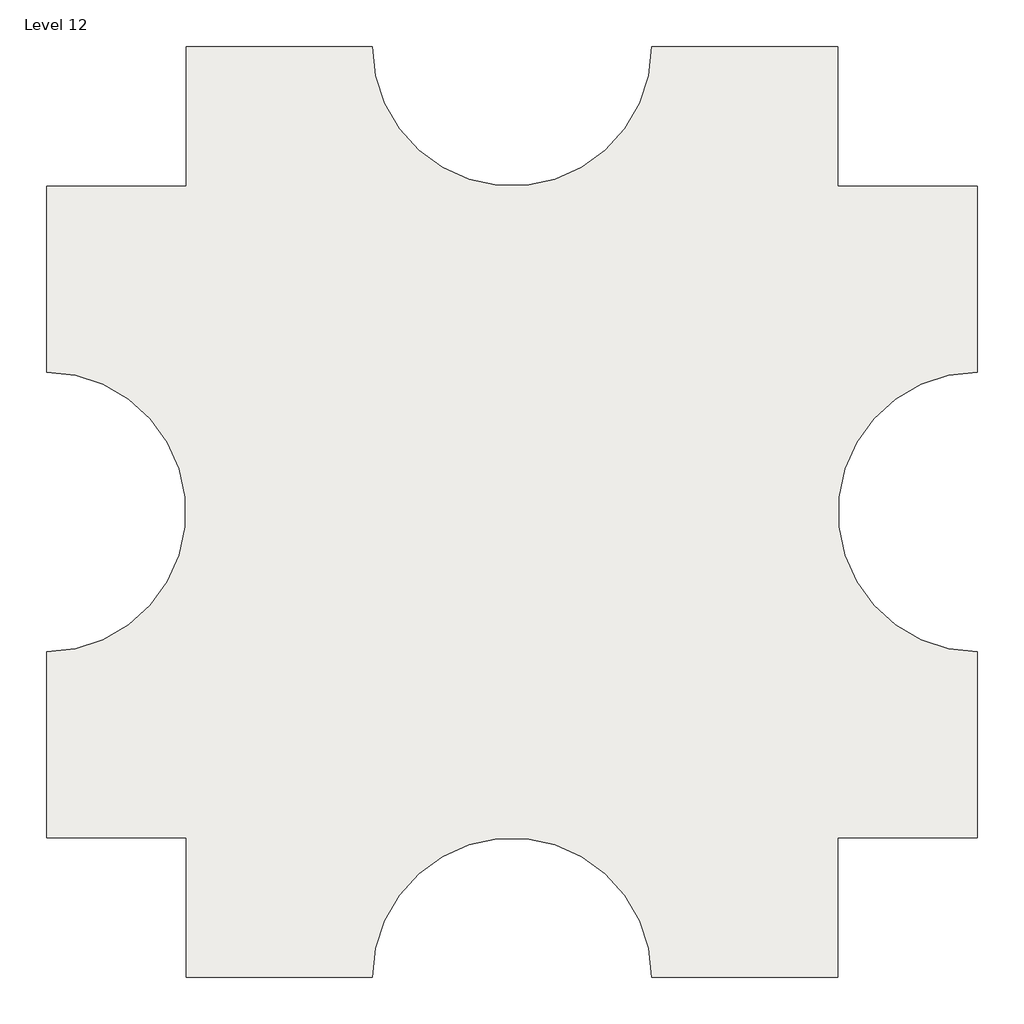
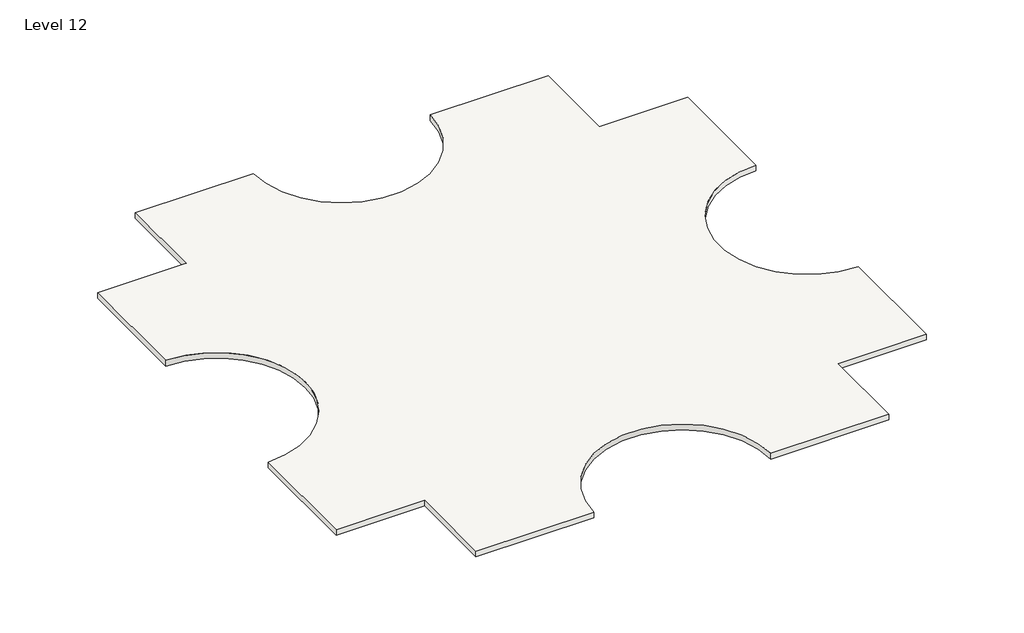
# One storey: 1 slab.
"""IFC4 building model written with IfcOpenShell, lengths in millimetres."""

import ifcopenshell
import ifcopenshell.guid

model = None  # the IFC model being written
_history = None  # IfcOwnerHistory: only IFC2X3 demands one
_inside = {}  # id of a spatial element -> (the spatial element, [elements in it])
_under = {}  # id of a project, library or spatial element -> (it, [spatial elements below it])
_declared = {}  # id of a project -> (the project, [libraries it declares])
_typed = {}  # id of a type object -> (the type object, [elements of that type])
_made_of = {}  # id of a material, layer set ... -> (it, [elements and type objects made of it])


def new_model(schema):
    """Start an empty IFC model of exactly this schema.

    Asked for "IFC4X3", IfcOpenShell would pick the latest addendum, in which some entities
    have other attributes; the version numbers below select the first issue.
    IFC2X3 requires an IfcOwnerHistory on every rooted entity: one is made here for all.
    """
    global model, _history
    if schema == "IFC4X3":
        model = ifcopenshell.file(schema_version=(4, 3, 0, 0))
    else:
        model = ifcopenshell.file(schema=schema)
    _inside.clear()
    _under.clear()
    _declared.clear()
    _typed.clear()
    _made_of.clear()
    _history = None
    if model.schema == "IFC2X3":
        org = make("IfcOrganization", Name="unknown")
        user = make(
            "IfcPersonAndOrganization",
            ThePerson=make("IfcPerson", FamilyName="unknown"),
            TheOrganization=org,
        )
        app = make(
            "IfcApplication",
            ApplicationDeveloper=org,
            Version="unknown",
            ApplicationFullName="unknown",
            ApplicationIdentifier="unknown",
        )
        _history = make(
            "IfcOwnerHistory",
            OwningUser=user,
            OwningApplication=app,
            ChangeAction="ADDED",
            CreationDate=0,
        )
    return model


def make(cls, **values):
    """One entity of the class cls with the attributes given. An attribute that is None is left unset."""
    return model.create_entity(
        cls, **{name: value for name, value in values.items() if value is not None}
    )


def rooted(cls, **values):
    """An entity with a GlobalId (a new one), such as an element, a storey or a relation."""
    return make(cls, GlobalId=ifcopenshell.guid.new(), OwnerHistory=_history, **values)


def si_unit(unit_type, name, prefix=None):
    """IfcSIUnit, for example si_unit("LENGTHUNIT", "METRE", prefix="MILLI")."""
    return make("IfcSIUnit", UnitType=unit_type, Prefix=prefix, Name=name)


def assignment(units):
    """IfcUnitAssignment: the units of a project."""
    return None if units is None else make("IfcUnitAssignment", Units=units)


def point(xyz):
    """IfcCartesianPoint."""
    return None if xyz is None else make("IfcCartesianPoint", Coordinates=xyz)


def direction(xyz):
    """IfcDirection."""
    return None if xyz is None else make("IfcDirection", DirectionRatios=xyz)


def frame(location, z_axis=None, x_axis=None):
    """IfcAxis2Placement3D, a coordinate frame: its origin and axes. An axis left out is left unset."""
    return make(
        "IfcAxis2Placement3D",
        Location=point(location),
        Axis=direction(z_axis),
        RefDirection=direction(x_axis),
    )


def frame_2d(location, x_axis=None):
    """IfcAxis2Placement2D, a coordinate frame in the plane: its origin and x axis."""
    return make(
        "IfcAxis2Placement2D", Location=point(location), RefDirection=direction(x_axis)
    )


def origin():
    """The frame at (0, 0, 0) with its axes left unset."""
    return frame((0.0, 0.0, 0.0))


def place(relative_to, where):
    """IfcLocalPlacement: puts the frame where relative to a parent placement (None: the world)."""
    return make(
        "IfcLocalPlacement", PlacementRelTo=relative_to, RelativePlacement=where
    )


def context(
    kind, dimensions, precision=None, world=None, true_north=None, identifier=None
):
    """IfcGeometricRepresentationContext, for example the 3D "Model" context."""
    return make(
        "IfcGeometricRepresentationContext",
        ContextIdentifier=identifier,
        ContextType=kind,
        CoordinateSpaceDimension=dimensions,
        Precision=precision,
        WorldCoordinateSystem=world,
        TrueNorth=true_north,
    )


def project(units=None, contexts=None):
    """IfcProject with its units and contexts."""
    return rooted(
        "IfcProject",
        Name="project",
        RepresentationContexts=contexts,
        UnitsInContext=assignment(units),
    )


def spatial(cls, under=None, at=None, **own):
    """A site, building, storey or space (cls), placed at a placement, below another one or the project."""
    s = rooted(cls, ObjectPlacement=at, **own)
    if under is not None:
        _under.setdefault(under.id(), (under, []))[1].append(s)
    return s


def polyline(points):
    """IfcPolyline through the points."""
    return make("IfcPolyline", Points=[point(p) for p in points])


def circle_curve(where, radius):
    """IfcCircle in the frame where."""
    return make("IfcCircle", Position=where, Radius=radius)


def trimmed(basis, trim1, trim2, sense, master):
    """IfcTrimmedCurve: the piece of a basis curve between two trims."""
    return make(
        "IfcTrimmedCurve",
        BasisCurve=basis,
        Trim1=trim1,
        Trim2=trim2,
        SenseAgreement=sense,
        MasterRepresentation=master,
    )


def segment(curve, same_sense, transition):
    """IfcCompositeCurveSegment."""
    return make(
        "IfcCompositeCurveSegment",
        Transition=transition,
        SameSense=same_sense,
        ParentCurve=curve,
    )


def composite_curve(segments, self_intersect=None):
    """IfcCompositeCurve: segments joined end to end."""
    return make("IfcCompositeCurve", Segments=segments, SelfIntersect=self_intersect)


def outline(outer, holes=None, kind="AREA"):
    """IfcArbitraryClosedProfileDef: a profile drawn as a closed curve; with holes, ...WithVoids."""
    if holes is None:
        return make("IfcArbitraryClosedProfileDef", ProfileType=kind, OuterCurve=outer)
    return make(
        "IfcArbitraryProfileDefWithVoids",
        ProfileType=kind,
        OuterCurve=outer,
        InnerCurves=holes,
    )


def extrude(swept, where, along, depth):
    """IfcExtrudedAreaSolid: the profile swept, set in the frame where, extruded along a direction by depth."""
    return make(
        "IfcExtrudedAreaSolid",
        SweptArea=swept,
        Position=where,
        ExtrudedDirection=direction(along),
        Depth=depth,
    )


def shape(context_of_items, identifier, shape_type, items):
    """IfcShapeRepresentation: the items that make up one representation, for example the "Body"."""
    return make(
        "IfcShapeRepresentation",
        ContextOfItems=context_of_items,
        RepresentationIdentifier=identifier,
        RepresentationType=shape_type,
        Items=items,
    )


def made_of(thing, what):
    """Note that an element or type object is made of a material, layer set ...; save() writes the relation."""
    if what is not None:
        _made_of.setdefault(what.id(), (what, []))[1].append(thing)
    return thing


def element(
    cls,
    number,
    at=None,
    inside=None,
    cuts=None,
    type_object=None,
    material=None,
    context=None,
    identifier="Body",
    shape_type=None,
    held_by="IfcProductDefinitionShape",
    body=None,
    shapes=None,
    **own,
):
    """One element of the class cls, such as IfcWall. Its Tag is "e" and its number.

    at: its placement. inside: the storey or other place that contains it. cuts: it is an
    opening in that element (IfcRelVoidsElement). A single representation is given by context,
    identifier, shape_type and body (its items); several are given by shapes. held_by: the class
    of the entity that holds the representations. save() writes the other relations.
    """
    e = rooted(cls, Tag="e%d" % number, ObjectPlacement=at, **own)
    if body is not None:
        shapes = [shape(context, identifier, shape_type, body)]
    if shapes is not None:
        e.Representation = make(held_by, Representations=shapes)
    if inside is not None:
        _inside.setdefault(inside.id(), (inside, []))[1].append(e)
    if cuts is not None:
        rooted(
            "IfcRelVoidsElement", RelatingBuildingElement=cuts, RelatedOpeningElement=e
        )
    if type_object is not None:
        _typed.setdefault(type_object.id(), (type_object, []))[1].append(e)
    return made_of(e, material)


def aggregate(whole, parts):
    """IfcRelAggregates: a whole, such as a stair, and the parts it consists of."""
    return rooted("IfcRelAggregates", RelatingObject=whole, RelatedObjects=parts)


def save(model, path):
    """Write the relations noted so far, then the file.

    IfcRelAggregates (storeys below a building ...), IfcRelContainedInSpatialStructure (elements
    in a storey), IfcRelDefinesByType, IfcRelAssociatesMaterial and IfcRelDeclares: one each for
    every whole, place, type object, material and project.
    """
    for whole, parts in _under.values():
        aggregate(whole, parts)
    for where, things in _inside.values():
        rooted(
            "IfcRelContainedInSpatialStructure",
            RelatedElements=things,
            RelatingStructure=where,
        )
    for kind, things in _typed.values():
        rooted("IfcRelDefinesByType", RelatedObjects=things, RelatingType=kind)
    for what, things in _made_of.values():
        rooted("IfcRelAssociatesMaterial", RelatedObjects=things, RelatingMaterial=what)
    for by, libraries in _declared.values():
        rooted("IfcRelDeclares", RelatingContext=by, RelatedDefinitions=libraries)
    model.write(path)


model = new_model("IFC4")

# Units and contexts
model_context = context("Model", 3, world=origin())
ifc_project = project(units=[si_unit("LENGTHUNIT", "METRE", prefix="MILLI")], contexts=[model_context])

# Site, building, storey
site = spatial("IfcSite", under=ifc_project)
building = spatial("IfcBuilding", under=site)
storey = spatial("IfcBuildingStorey", under=building, Name="Level 12", Elevation=33528.0)

# Slab
placement = place(None, origin())
element("IfcSlab", 1, ObjectType="Generic - 12\"", at=placement, inside=storey, context=model_context, shape_type="SweptSolid", body=[
    extrude(outline(composite_curve([segment(polyline([(-7150.3629456, 4479.6634547), (-7150.3629456, 9051.6634547), (-1054.3629456, 9051.6634547)]), True, "CONTINUOUS"), segment(trimmed(circle_curve(frame_2d((3517.6370544, 9051.6634547)), 4572.0), [point((-1054.3629456, 9051.6634547))], [point((8089.6370544, 9051.6634547))], True, "CARTESIAN"), True, "CONTINUOUS"), segment(polyline([(8089.6370544, 9051.6634547), (14185.6370544, 9051.6634547), (14185.6370544, 4479.6634547), (18757.6370544, 4479.6634547), (18757.6370544, -1616.3365453)]), True, "CONTINUOUS"), segment(trimmed(circle_curve(frame_2d((18757.6370544, -6188.3365453)), 4572.0), [point((18757.6370544, -1616.3365453))], [point((18757.6370544, -10760.3365453))], True, "CARTESIAN"), True, "CONTINUOUS"), segment(polyline([(18757.6370544, -10760.3365453), (18757.6370544, -16856.3365453), (14185.6370544, -16856.3365453), (14185.6370544, -21428.3365453), (8089.6370544, -21428.3365453)]), True, "CONTINUOUS"), segment(trimmed(circle_curve(frame_2d((3517.6370544, -21428.3365453)), 4572.0), [point((8089.6370544, -21428.3365453))], [point((-1054.3629456, -21428.3365453))], True, "CARTESIAN"), True, "CONTINUOUS"), segment(polyline([(-1054.3629456, -21428.3365453), (-7150.3629456, -21428.3365453), (-7150.3629456, -16856.3365453), (-11722.3629456, -16856.3365453), (-11722.3629456, -10760.3365453)]), True, "CONTINUOUS"), segment(trimmed(circle_curve(frame_2d((-11722.3629456, -6188.3365453)), 4572.0), [point((-11722.3629456, -10760.3365453))], [point((-11722.3629456, -1616.3365453))], True, "CARTESIAN"), True, "CONTINUOUS"), segment(polyline([(-11722.3629456, -1616.3365453), (-11722.3629456, 4479.6634547), (-7150.3629456, 4479.6634547)]), True, "CONTINUOUS")], self_intersect=False)), frame((0.0, 0.0, 33223.2), z_axis=(0.0, 0.0, 1.0), x_axis=(1.0, 0.0, 0.0)), (0.0, 0.0, 1.0), 304.8),
])

save(model, "model.ifc")
